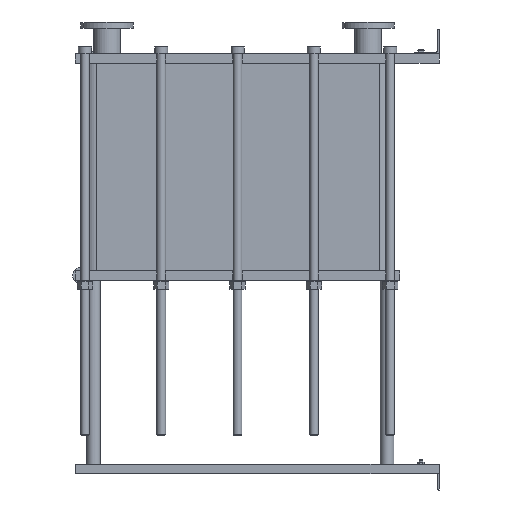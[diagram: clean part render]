
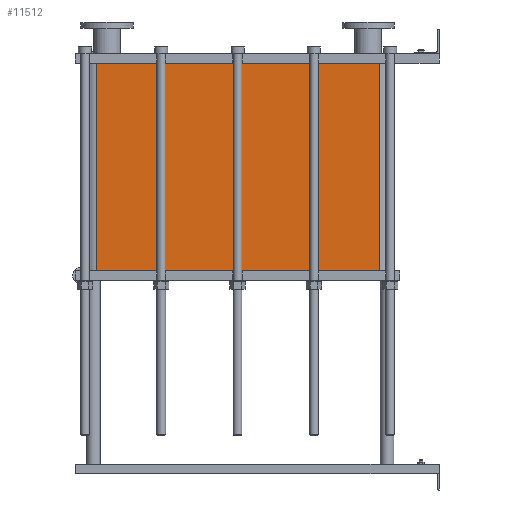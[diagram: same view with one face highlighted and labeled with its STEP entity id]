
A CAD part, left-side view. The second image highlights one B-rep face of the part: STEP entity #11512.
In plain terms, the highlighted planar face has unit normal (-1, 0, 0).
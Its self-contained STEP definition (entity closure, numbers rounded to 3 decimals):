
#1129=LINE('',#23232,#2102);
#1130=LINE('',#23236,#2103);
#1131=LINE('',#23238,#2104);
#1132=LINE('',#23239,#2105);
#2102=VECTOR('',#15887,10.);
#2103=VECTOR('',#15892,10.);
#2104=VECTOR('',#15893,10.);
#2105=VECTOR('',#15894,10.);
#3267=FACE_OUTER_BOUND('',#4093,.T.);
#4093=EDGE_LOOP('',(#10103,#10104,#10105,#10106));
#5642=VERTEX_POINT('',#23229);
#5643=VERTEX_POINT('',#23231);
#5644=VERTEX_POINT('',#23235);
#5645=VERTEX_POINT('',#23237);
#7159=EDGE_CURVE('',#5643,#5642,#1129,.T.);
#7161=EDGE_CURVE('',#5642,#5644,#1130,.T.);
#7162=EDGE_CURVE('',#5645,#5644,#1131,.T.);
#7163=EDGE_CURVE('',#5645,#5643,#1132,.T.);
#10103=ORIENTED_EDGE('',*,*,#7161,.T.);
#10104=ORIENTED_EDGE('',*,*,#7162,.F.);
#10105=ORIENTED_EDGE('',*,*,#7163,.T.);
#10106=ORIENTED_EDGE('',*,*,#7159,.T.);
#10857=PLANE('',#12751);
#11512=ADVANCED_FACE('',(#3267),#10857,.T.);
#12751=AXIS2_PLACEMENT_3D('',#23234,#15890,#15891);
#15887=DIRECTION('',(0.,0.,-1.));
#15890=DIRECTION('center_axis',(-1.,0.,0.));
#15891=DIRECTION('ref_axis',(0.,1.,0.));
#15892=DIRECTION('',(0.,-1.,0.));
#15893=DIRECTION('',(0.,0.,-1.));
#15894=DIRECTION('',(0.,1.,0.));
#23229=CARTESIAN_POINT('',(-200.,1414.,-855.6));
#23231=CARTESIAN_POINT('',(-200.,1414.,0.));
#23232=CARTESIAN_POINT('',(-200.,1414.,0.));
#23234=CARTESIAN_POINT('Origin',(-200.,248.,0.));
#23235=CARTESIAN_POINT('',(-200.,248.,-855.6));
#23236=CARTESIAN_POINT('',(-200.,539.5,-855.6));
#23237=CARTESIAN_POINT('',(-200.,248.,0.));
#23238=CARTESIAN_POINT('',(-200.,248.,0.));
#23239=CARTESIAN_POINT('',(-200.,248.,0.));
